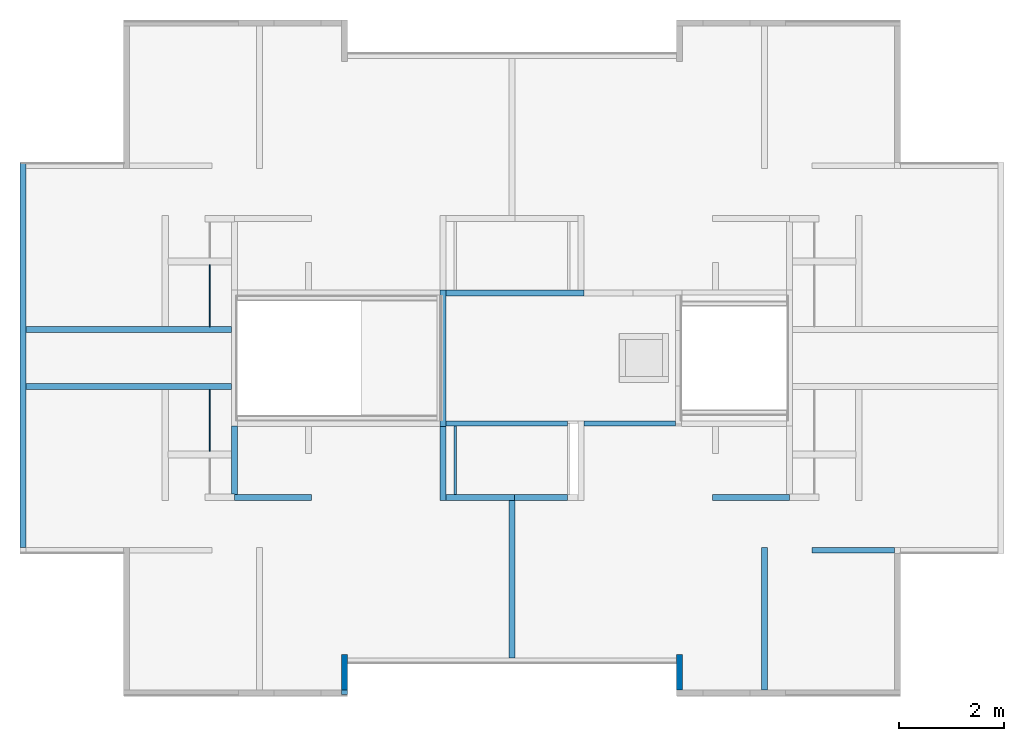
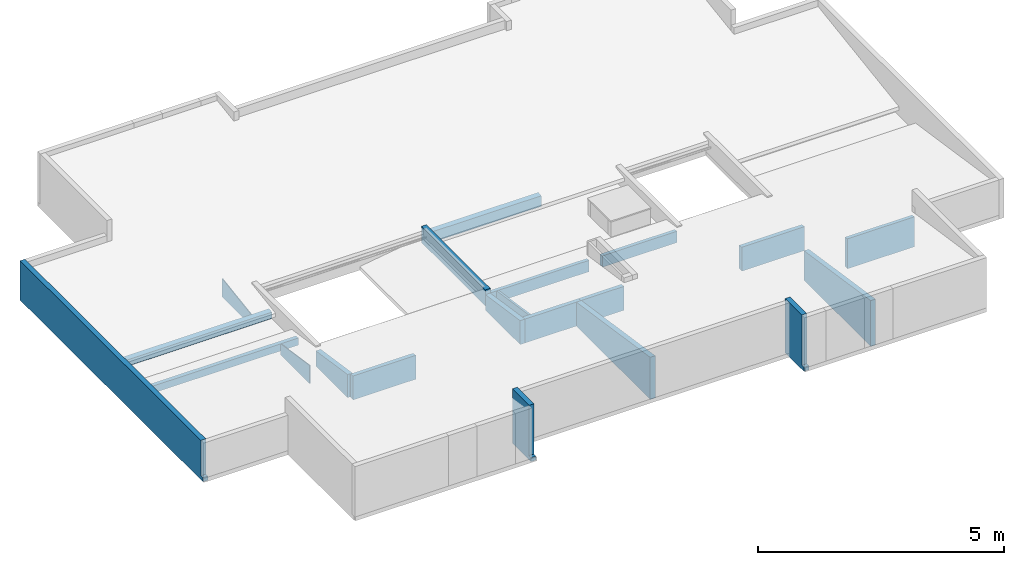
# One storey, part 4 of 9: 21 walls, 2 openings.
"""IFC4 building model written with IfcOpenShell, lengths in metres."""

import ifcopenshell
import ifcopenshell.guid

model = None  # the IFC model being written
_history = None  # IfcOwnerHistory: only IFC2X3 demands one
_inside = {}  # id of a spatial element -> (the spatial element, [elements in it])
_under = {}  # id of a project, library or spatial element -> (it, [spatial elements below it])
_declared = {}  # id of a project -> (the project, [libraries it declares])
_typed = {}  # id of a type object -> (the type object, [elements of that type])
_made_of = {}  # id of a material, layer set ... -> (it, [elements and type objects made of it])


def new_model(schema):
    """Start an empty IFC model of exactly this schema.

    Asked for "IFC4X3", IfcOpenShell would pick the latest addendum, in which some entities
    have other attributes; the version numbers below select the first issue.
    IFC2X3 requires an IfcOwnerHistory on every rooted entity: one is made here for all.
    """
    global model, _history
    if schema == "IFC4X3":
        model = ifcopenshell.file(schema_version=(4, 3, 0, 0))
    else:
        model = ifcopenshell.file(schema=schema)
    _inside.clear()
    _under.clear()
    _declared.clear()
    _typed.clear()
    _made_of.clear()
    _history = None
    if model.schema == "IFC2X3":
        org = make("IfcOrganization", Name="unknown")
        user = make(
            "IfcPersonAndOrganization",
            ThePerson=make("IfcPerson", FamilyName="unknown"),
            TheOrganization=org,
        )
        app = make(
            "IfcApplication",
            ApplicationDeveloper=org,
            Version="unknown",
            ApplicationFullName="unknown",
            ApplicationIdentifier="unknown",
        )
        _history = make(
            "IfcOwnerHistory",
            OwningUser=user,
            OwningApplication=app,
            ChangeAction="ADDED",
            CreationDate=0,
        )
    return model


def make(cls, **values):
    """One entity of the class cls with the attributes given. An attribute that is None is left unset."""
    return model.create_entity(
        cls, **{name: value for name, value in values.items() if value is not None}
    )


def entity(cls, *values):
    """Any entity or typed value of the class cls, its attributes in the order of the schema. None: left unset."""
    e = model.create_entity(cls)
    for i, value in enumerate(values):
        if value is not None:
            e[i] = value
    return e


def rooted(cls, **values):
    """An entity with a GlobalId (a new one), such as an element, a storey or a relation."""
    return make(cls, GlobalId=ifcopenshell.guid.new(), OwnerHistory=_history, **values)


def si_unit(unit_type, name, prefix=None):
    """IfcSIUnit, for example si_unit("LENGTHUNIT", "METRE", prefix="MILLI")."""
    return make("IfcSIUnit", UnitType=unit_type, Prefix=prefix, Name=name)


def converted_unit(unit_type, name, factor, base, dimensions=None, offset=None):
    """IfcConversionBasedUnit, such as the inch: factor (a typed value) times the base unit."""
    return make(
        "IfcConversionBasedUnit"
        if offset is None
        else "IfcConversionBasedUnitWithOffset",
        ConversionOffset=offset,
        Dimensions=None
        if dimensions is None
        else entity("IfcDimensionalExponents", *dimensions),
        UnitType=unit_type,
        Name=name,
        ConversionFactor=make(
            "IfcMeasureWithUnit", ValueComponent=factor, UnitComponent=base
        ),
    )


def derived_unit(unit_type, elements):
    """IfcDerivedUnit: a product of units, each with its exponent."""
    return make(
        "IfcDerivedUnit",
        Elements=[
            make("IfcDerivedUnitElement", Unit=unit, Exponent=power)
            for unit, power in elements
        ],
        UnitType=unit_type,
    )


def assignment(units):
    """IfcUnitAssignment: the units of a project."""
    return None if units is None else make("IfcUnitAssignment", Units=units)


def point(xyz):
    """IfcCartesianPoint."""
    return None if xyz is None else make("IfcCartesianPoint", Coordinates=xyz)


def direction(xyz):
    """IfcDirection."""
    return None if xyz is None else make("IfcDirection", DirectionRatios=xyz)


def frame(location, z_axis=None, x_axis=None):
    """IfcAxis2Placement3D, a coordinate frame: its origin and axes. An axis left out is left unset."""
    return make(
        "IfcAxis2Placement3D",
        Location=point(location),
        Axis=direction(z_axis),
        RefDirection=direction(x_axis),
    )


def origin():
    """The frame at (0, 0, 0) with its axes left unset."""
    return frame((0.0, 0.0, 0.0))


def place(relative_to, where):
    """IfcLocalPlacement: puts the frame where relative to a parent placement (None: the world)."""
    return make(
        "IfcLocalPlacement", PlacementRelTo=relative_to, RelativePlacement=where
    )


def context(
    kind, dimensions, precision=None, world=None, true_north=None, identifier=None
):
    """IfcGeometricRepresentationContext, for example the 3D "Model" context."""
    return make(
        "IfcGeometricRepresentationContext",
        ContextIdentifier=identifier,
        ContextType=kind,
        CoordinateSpaceDimension=dimensions,
        Precision=precision,
        WorldCoordinateSystem=world,
        TrueNorth=true_north,
    )


def subcontext(parent, identifier, kind, view, scale=None):
    """IfcGeometricRepresentationSubContext, for example "Body" below "Model"."""
    return make(
        "IfcGeometricRepresentationSubContext",
        ContextIdentifier=identifier,
        ContextType=kind,
        ParentContext=parent,
        TargetScale=scale,
        TargetView=view,
    )


def project(units=None, contexts=None):
    """IfcProject with its units and contexts."""
    return rooted(
        "IfcProject",
        Name="project",
        RepresentationContexts=contexts,
        UnitsInContext=assignment(units),
    )


def spatial(cls, under=None, at=None, **own):
    """A site, building, storey or space (cls), placed at a placement, below another one or the project."""
    s = rooted(cls, ObjectPlacement=at, **own)
    if under is not None:
        _under.setdefault(under.id(), (under, []))[1].append(s)
    return s


def point_list(points):
    """IfcCartesianPointList2D or 3D."""
    cls = (
        "IfcCartesianPointList2D" if len(points[0]) == 2 else "IfcCartesianPointList3D"
    )
    return make(cls, CoordList=points)


def indexed_curve(points, segments=None, self_intersect=None):
    """IfcIndexedPolyCurve: lines and arcs through numbered points (the first is 1)."""
    return make(
        "IfcIndexedPolyCurve",
        Points=point_list(points),
        Segments=segments,
        SelfIntersect=self_intersect,
    )


def outline(outer, holes=None, kind="AREA"):
    """IfcArbitraryClosedProfileDef: a profile drawn as a closed curve; with holes, ...WithVoids."""
    if holes is None:
        return make("IfcArbitraryClosedProfileDef", ProfileType=kind, OuterCurve=outer)
    return make(
        "IfcArbitraryProfileDefWithVoids",
        ProfileType=kind,
        OuterCurve=outer,
        InnerCurves=holes,
    )


def extrude(swept, where, along, depth):
    """IfcExtrudedAreaSolid: the profile swept, set in the frame where, extruded along a direction by depth."""
    return make(
        "IfcExtrudedAreaSolid",
        SweptArea=swept,
        Position=where,
        ExtrudedDirection=direction(along),
        Depth=depth,
    )


def polygons(points, faces, closed=None, point_numbers=None):
    """IfcPolygonalFaceSet: a face is its outer loop, then its inner loops; points numbered from 1."""
    made = []
    for loops in faces:
        if len(loops) == 1:
            made.append(make("IfcIndexedPolygonalFace", CoordIndex=loops[0]))
        else:
            made.append(
                make(
                    "IfcIndexedPolygonalFaceWithVoids",
                    CoordIndex=loops[0],
                    InnerCoordIndices=loops[1:],
                )
            )
    return make(
        "IfcPolygonalFaceSet",
        Coordinates=point_list(points),
        Closed=closed,
        Faces=made,
        PnIndex=point_numbers,
    )


def shape(context_of_items, identifier, shape_type, items):
    """IfcShapeRepresentation: the items that make up one representation, for example the "Body"."""
    return make(
        "IfcShapeRepresentation",
        ContextOfItems=context_of_items,
        RepresentationIdentifier=identifier,
        RepresentationType=shape_type,
        Items=items,
    )


def material(Name=None, Category=None):
    """IfcMaterial."""
    return make("IfcMaterial", Name=Name, Category=Category)


def made_of(thing, what):
    """Note that an element or type object is made of a material, layer set ...; save() writes the relation."""
    if what is not None:
        _made_of.setdefault(what.id(), (what, []))[1].append(thing)
    return thing


def type_object(cls, material=None, **own):
    """A type object (cls), such as IfcWallType, which elements share."""
    return made_of(rooted(cls, **own), material)


def element(
    cls,
    number,
    at=None,
    inside=None,
    cuts=None,
    type_object=None,
    material=None,
    context=None,
    identifier="Body",
    shape_type=None,
    held_by="IfcProductDefinitionShape",
    body=None,
    shapes=None,
    **own,
):
    """One element of the class cls, such as IfcWall. Its Tag is "e" and its number.

    at: its placement. inside: the storey or other place that contains it. cuts: it is an
    opening in that element (IfcRelVoidsElement). A single representation is given by context,
    identifier, shape_type and body (its items); several are given by shapes. held_by: the class
    of the entity that holds the representations. save() writes the other relations.
    """
    e = rooted(cls, Tag="e%d" % number, ObjectPlacement=at, **own)
    if body is not None:
        shapes = [shape(context, identifier, shape_type, body)]
    if shapes is not None:
        e.Representation = make(held_by, Representations=shapes)
    if inside is not None:
        _inside.setdefault(inside.id(), (inside, []))[1].append(e)
    if cuts is not None:
        rooted(
            "IfcRelVoidsElement", RelatingBuildingElement=cuts, RelatedOpeningElement=e
        )
    if type_object is not None:
        _typed.setdefault(type_object.id(), (type_object, []))[1].append(e)
    return made_of(e, material)


def aggregate(whole, parts):
    """IfcRelAggregates: a whole, such as a stair, and the parts it consists of."""
    return rooted("IfcRelAggregates", RelatingObject=whole, RelatedObjects=parts)


def save(model, path):
    """Write the relations noted so far, then the file.

    IfcRelAggregates (storeys below a building ...), IfcRelContainedInSpatialStructure (elements
    in a storey), IfcRelDefinesByType, IfcRelAssociatesMaterial and IfcRelDeclares: one each for
    every whole, place, type object, material and project.
    """
    for whole, parts in _under.values():
        aggregate(whole, parts)
    for where, things in _inside.values():
        rooted(
            "IfcRelContainedInSpatialStructure",
            RelatedElements=things,
            RelatingStructure=where,
        )
    for kind, things in _typed.values():
        rooted("IfcRelDefinesByType", RelatedObjects=things, RelatingType=kind)
    for what, things in _made_of.values():
        rooted("IfcRelAssociatesMaterial", RelatedObjects=things, RelatingMaterial=what)
    for by, libraries in _declared.values():
        rooted("IfcRelDeclares", RelatingContext=by, RelatedDefinitions=libraries)
    model.write(path)


model = new_model("IFC4")

# Units and contexts
model_context = context("Model", 3, precision=1e-05, world=origin(), true_north=direction((6.123031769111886e-17, 1.0)))
body_context = subcontext(model_context, "Body", "Model", "MODEL_VIEW")
ifc_project = project(units=[si_unit("LENGTHUNIT", "METRE"), si_unit("AREAUNIT", "SQUARE_METRE"), si_unit("VOLUMEUNIT", "CUBIC_METRE"), converted_unit("PLANEANGLEUNIT", "DEGREE", entity("IfcRatioMeasure", 0.017453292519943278), si_unit("PLANEANGLEUNIT", "RADIAN"), dimensions=[0, 0, 0, 0, 0, 0, 0]), si_unit("MASSUNIT", "GRAM", prefix="KILO"), derived_unit("MASSDENSITYUNIT", [(si_unit("MASSUNIT", "GRAM", prefix="KILO"), 1), (si_unit("LENGTHUNIT", "METRE"), -3)]), derived_unit("IONCONCENTRATIONUNIT", [(si_unit("MASSUNIT", "GRAM", prefix="KILO"), 1), (si_unit("LENGTHUNIT", "METRE"), -3)]), derived_unit("MOMENTOFINERTIAUNIT", [(si_unit("LENGTHUNIT", "METRE"), 4)]), si_unit("TIMEUNIT", "SECOND"), si_unit("FREQUENCYUNIT", "HERTZ"), si_unit("THERMODYNAMICTEMPERATUREUNIT", "DEGREE_CELSIUS"), derived_unit("THERMALTRANSMITTANCEUNIT", [(si_unit("MASSUNIT", "GRAM", prefix="KILO"), 1), (si_unit("THERMODYNAMICTEMPERATUREUNIT", "KELVIN"), -1), (si_unit("TIMEUNIT", "SECOND"), -3)]), derived_unit("THERMALCONDUCTANCEUNIT", [(si_unit("MASSUNIT", "GRAM", prefix="KILO"), 1), (si_unit("THERMODYNAMICTEMPERATUREUNIT", "KELVIN"), -1), (si_unit("TIMEUNIT", "SECOND"), -3), (si_unit("LENGTHUNIT", "METRE"), 1)]), derived_unit("VOLUMETRICFLOWRATEUNIT", [(si_unit("LENGTHUNIT", "METRE"), 3), (si_unit("TIMEUNIT", "SECOND"), -1)]), derived_unit("MASSFLOWRATEUNIT", [(si_unit("MASSUNIT", "GRAM", prefix="KILO"), 1), (si_unit("TIMEUNIT", "SECOND"), -1)]), derived_unit("ROTATIONALFREQUENCYUNIT", [(si_unit("TIMEUNIT", "SECOND"), -1)]), si_unit("ELECTRICCURRENTUNIT", "AMPERE"), si_unit("ELECTRICVOLTAGEUNIT", "VOLT"), si_unit("POWERUNIT", "WATT"), si_unit("FORCEUNIT", "NEWTON", prefix="KILO"), si_unit("ILLUMINANCEUNIT", "LUX"), si_unit("LUMINOUSFLUXUNIT", "LUMEN"), si_unit("LUMINOUSINTENSITYUNIT", "CANDELA"), derived_unit("USERDEFINED", [(si_unit("MASSUNIT", "GRAM", prefix="KILO"), -1), (si_unit("LENGTHUNIT", "METRE"), -2), (si_unit("TIMEUNIT", "SECOND"), 3), (si_unit("LUMINOUSFLUXUNIT", "LUMEN"), 1)]), derived_unit("USERDEFINED", [(si_unit("MASSUNIT", "GRAM", prefix="KILO"), 1), (si_unit("TIMEUNIT", "SECOND"), -3), (si_unit("LENGTHUNIT", "METRE"), 3), (si_unit("ELECTRICCURRENTUNIT", "AMPERE"), -2)]), derived_unit("SOUNDPOWERUNIT", [(si_unit("MASSUNIT", "GRAM", prefix="KILO"), 1), (si_unit("TIMEUNIT", "SECOND"), -3), (si_unit("LENGTHUNIT", "METRE"), 2)]), derived_unit("SOUNDPRESSUREUNIT", [(si_unit("MASSUNIT", "GRAM", prefix="KILO"), 1), (si_unit("LENGTHUNIT", "METRE"), -1), (si_unit("TIMEUNIT", "SECOND"), -2)]), derived_unit("LINEARVELOCITYUNIT", [(si_unit("LENGTHUNIT", "METRE"), 1), (si_unit("TIMEUNIT", "SECOND"), -1)]), si_unit("PRESSUREUNIT", "PASCAL"), derived_unit("USERDEFINED", [(si_unit("MASSUNIT", "GRAM", prefix="KILO"), 1), (si_unit("LENGTHUNIT", "METRE"), -2), (si_unit("TIMEUNIT", "SECOND"), -2)]), derived_unit("LINEARFORCEUNIT", [(si_unit("MASSUNIT", "GRAM", prefix="KILO"), 1), (si_unit("TIMEUNIT", "SECOND"), -2)]), derived_unit("PLANARFORCEUNIT", [(si_unit("MASSUNIT", "GRAM", prefix="KILO"), 1), (si_unit("LENGTHUNIT", "METRE"), -1), (si_unit("TIMEUNIT", "SECOND"), -2)]), derived_unit("SPECIFICHEATCAPACITYUNIT", [(si_unit("THERMODYNAMICTEMPERATUREUNIT", "KELVIN"), -1), (si_unit("LENGTHUNIT", "METRE"), 2), (si_unit("TIMEUNIT", "SECOND"), -2)]), derived_unit("HEATINGVALUEUNIT", [(si_unit("LENGTHUNIT", "METRE"), 2), (si_unit("TIMEUNIT", "SECOND"), -2)]), derived_unit("VAPORPERMEABILITYUNIT", [(si_unit("LENGTHUNIT", "METRE"), -1), (si_unit("TIMEUNIT", "SECOND"), 1)]), derived_unit("DYNAMICVISCOSITYUNIT", [(si_unit("MASSUNIT", "GRAM", prefix="KILO"), 1), (si_unit("TIMEUNIT", "SECOND"), -1), (si_unit("LENGTHUNIT", "METRE"), -1)]), derived_unit("THERMALEXPANSIONCOEFFICIENTUNIT", [(si_unit("THERMODYNAMICTEMPERATUREUNIT", "KELVIN"), -1)]), derived_unit("MODULUSOFELASTICITYUNIT", [(si_unit("MASSUNIT", "GRAM", prefix="KILO"), 1), (si_unit("LENGTHUNIT", "METRE"), -1), (si_unit("TIMEUNIT", "SECOND"), -2)]), derived_unit("ISOTHERMALMOISTURECAPACITYUNIT", [(si_unit("LENGTHUNIT", "METRE"), 3), (si_unit("MASSUNIT", "GRAM", prefix="KILO"), -1)]), derived_unit("MOISTUREDIFFUSIVITYUNIT", [(si_unit("TIMEUNIT", "SECOND"), -1), (si_unit("LENGTHUNIT", "METRE"), 2)])], contexts=[model_context])

# Site, building, storey
site_placement = place(None, origin())
site = spatial("IfcSite", under=ifc_project, at=site_placement, Name="Default", CompositionType="ELEMENT")
building_placement = place(site_placement, origin())
building = spatial("IfcBuilding", under=site, at=building_placement, CompositionType="ELEMENT")
storey_placement = place(building_placement, frame((0.0, 0.0, 14.10000000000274)))
storey = spatial("IfcBuildingStorey", under=building, at=storey_placement, Name="Nivel 7", CompositionType="ELEMENT", Elevation=14.10000000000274)

# Walls
ifc_material_1 = material(Name="Concreto (Aire)", Category="Materials")
wall_type_1 = type_object("IfcWallType", Name="Basic Wall:B2010 - 0.12m - Muro interior en concreto", PredefinedType="STANDARD")
wall_1_placement = place(storey_placement, frame((9.322500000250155, -12.140000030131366, -0.10000000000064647), z_axis=(0.0, 0.0, 1.0), x_axis=(0.0, 1.0, 0.0)))
element("IfcWall", 1, at=wall_1_placement, inside=storey, type_object=wall_type_1, material=ifc_material_1, Name="Basic Wall:B2010 - 0.12m - Muro interior en concreto", ObjectType="Basic Wall:B2010 - 0.12m - Muro interior en concreto", PredefinedType="NOTDEFINED", context=body_context, shape_type="Tessellation", body=[
    polygons([(0.0, -0.05999999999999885, 0.0), (3.000000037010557, -0.06000000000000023, 0.0), (3.000000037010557, -0.06000000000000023, 0.5934499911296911), (2.1657342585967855e-15, -0.05999999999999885, 1.0434499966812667), (0.0, 0.060000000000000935, 0.0), (0.0, 0.060000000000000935, 1.0434499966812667), (3.000000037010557, 0.06000000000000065, 0.5934499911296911), (3.000000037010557, 0.06000000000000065, 0.0)], [[[1, 2, 3, 4]], [[5, 6, 7, 8]], [[2, 1, 5, 8]], [[1, 4, 6, 5]], [[4, 3, 7, 6]], [[3, 2, 8, 7]]], closed=True),
])
ifc_material_2 = material(Name="Ladrillo claro (Aire)", Category="Materials")
wall_type_2 = type_object("IfcWallType", Name="Basic Wall:B2010 - 0.115m - Muro exterior en mampostería - Ladrillo", PredefinedType="STANDARD")
wall_2_placement = place(storey_placement, frame((0.0, -10.12500002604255, -0.10000000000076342), z_axis=(0.0, 0.0, 1.0), x_axis=(0.0, 1.0, 0.0)))
element("IfcWall", 2, at=wall_2_placement, inside=storey, type_object=wall_type_2, material=ifc_material_2, Name="Basic Wall:B2010 - 0.115m - Muro exterior en mampostería - Ladrillo", ObjectType="Basic Wall:B2010 - 0.115m - Muro exterior en mampostería - Ladrillo", PredefinedType="NOTDEFINED", context=body_context, shape_type="Tessellation", body=[
    polygons([(7.429999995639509, -0.05750000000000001, 0.9758000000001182), (7.314999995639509, -0.05750000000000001, 0.975800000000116), (0.08499999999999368, -0.05750000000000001, 0.9758000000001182), (0.08499999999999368, -0.05750000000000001, 0.1000000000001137), (0.0, -0.05750000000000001, 0.1000000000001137), (0.0, -0.05750000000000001, 6.042398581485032e-13), (3.099999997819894, -0.05750000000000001, 6.042398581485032e-13), (3.099999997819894, -0.057499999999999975, 0.09999999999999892), (4.299999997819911, -0.05750000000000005, 0.09999999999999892), (4.299999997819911, -0.0575, 6.042398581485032e-13), (7.429999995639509, -0.05750000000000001, 6.042398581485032e-13), (7.429999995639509, -0.05750000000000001, 0.10000000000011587), (7.429999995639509, 0.05749999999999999, 6.042398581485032e-13), (0.0, 0.0575, 6.042398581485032e-13), (0.0, 0.0575, 0.1000000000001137), (0.08499999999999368, 0.0575, 0.1000000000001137), (0.08499999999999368, 0.0575, 0.9758000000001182), (7.429999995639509, 0.05749999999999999, 0.9758000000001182), (3.099999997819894, 1.6271566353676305e-15, 0.09999999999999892), (4.299999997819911, 3.56567611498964e-15, 0.09999999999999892), (3.099999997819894, 1.6271566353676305e-15, 4.028265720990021e-13), (4.299999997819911, 3.56567611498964e-15, 4.028265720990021e-13)], [[[1, 2, 3, 4, 5, 6, 7, 8, 9, 10, 11, 12]], [[13, 14, 15, 16, 17, 18]], [[19, 20, 9, 8]], [[20, 19, 21, 22]], [[21, 19, 8, 7]], [[20, 22, 10, 9]], [[1, 12, 11, 13, 18]], [[14, 13, 11, 10, 22, 21, 7, 6]], [[3, 2, 1, 18, 17]], [[4, 3, 17, 16]], [[5, 4, 16, 15]], [[6, 5, 15, 14]]], closed=True),
])

# Wall, opening
wall_3_placement = place(storey_placement, frame((6.124999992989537, -12.84000003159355, -0.09999999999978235), z_axis=(0.0, 0.0, 1.0), x_axis=(0.0, 1.0, 0.0)))
wall_3 = element("IfcWall", 3, at=wall_3_placement, inside=storey, type_object=wall_type_2, material=ifc_material_2, Name="Basic Wall:B2010 - 0.115m - Muro exterior en mampostería - Ladrillo", ObjectType="Basic Wall:B2010 - 0.115m - Muro exterior en mampostería - Ladrillo", PredefinedType="NOTDEFINED", context=body_context, shape_type="Tessellation", body=[
    polygons([(0.08500000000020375, -0.057499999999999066, 0.09999999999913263), (0.0, -0.05749999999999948, 0.09999999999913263), (0.0, -0.05749999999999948, 0.0), (0.5850000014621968, -0.05749999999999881, 0.0), (0.6150000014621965, -0.05749999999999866, 0.0), (0.7599180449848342, -0.05749999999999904, 0.0), (0.7599180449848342, -0.05749999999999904, 1.3467999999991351), (0.08500000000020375, -0.057499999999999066, 1.3467999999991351), (0.08500000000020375, 0.05750000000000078, 0.09999999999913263), (0.08500000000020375, 0.05750000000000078, 1.3467999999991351), (0.7599180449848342, 0.057500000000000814, 1.3467999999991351), (0.7599180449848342, 0.057500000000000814, 0.0), (0.0, 0.05750000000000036, 0.0), (0.0, 0.05750000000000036, 0.09999999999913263)], [[[1, 2, 3, 4, 5, 6, 7, 8]], [[9, 10, 11, 12, 13, 14]], [[6, 5, 4, 3, 13, 12]], [[7, 6, 12, 11]], [[8, 7, 11, 10]], [[1, 8, 10, 9]], [[2, 1, 9, 14]], [[3, 2, 14, 13]]], closed=True),
])
opening_1_placement = place(wall_3_placement, origin())
element("IfcOpeningElement", 4, at=opening_1_placement, cuts=wall_3, Name="Basic Wall:B2010 - 0.115m - Muro exterior en mampostería - Ladrillo", PredefinedType="OPENING", context=body_context, shape_type="SweptSolid", body=[
    extrude(outline(indexed_curve([(-0.04250000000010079, -0.6233999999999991), (0.042500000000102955, -0.6233999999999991), (0.042500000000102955, 0.6234000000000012), (-0.04250000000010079, 0.6234000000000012), (-0.04250000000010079, -0.6233999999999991)], self_intersect=False)), frame((0.042500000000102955, 0.05750000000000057, 0.7233999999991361), z_axis=(0.0, -1.0, 0.0), x_axis=(-1.0, 0.0, 0.0)), (0.0, 0.0, 1.0), 0.115),
])

wall_4_placement = place(storey_placement, frame((12.520000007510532, -12.840000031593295, -0.09999999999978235), z_axis=(0.0, 0.0, 1.0), x_axis=(0.0, 1.0, 0.0)))
wall_4 = element("IfcWall", 5, at=wall_4_placement, inside=storey, type_object=wall_type_2, material=ifc_material_2, Name="Basic Wall:B2010 - 0.115m - Muro exterior en mampostería - Ladrillo", ObjectType="Basic Wall:B2010 - 0.115m - Muro exterior en mampostería - Ladrillo", PredefinedType="NOTDEFINED", context=body_context, shape_type="Tessellation", body=[
    polygons([(0.08499999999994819, -0.05749999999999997, 0.09999999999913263), (0.0, -0.057500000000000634, 0.09999999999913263), (0.0, -0.057500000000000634, 0.0), (0.7599180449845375, -0.057499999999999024, 0.0), (0.7599180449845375, -0.057499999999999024, 1.3467999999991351), (0.08499999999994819, -0.05749999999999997, 1.3467999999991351), (0.08499999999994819, 0.05749999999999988, 0.09999999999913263), (0.08499999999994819, 0.05749999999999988, 1.3467999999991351), (0.7599180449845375, 0.05750000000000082, 1.3467999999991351), (0.7599180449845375, 0.05750000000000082, 0.0), (0.6150000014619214, 0.05749999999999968, 0.0), (0.5850000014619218, 0.05749999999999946, 0.0), (0.0, 0.05749999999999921, 0.0), (0.0, 0.05749999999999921, 0.09999999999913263)], [[[1, 2, 3, 4, 5, 6]], [[7, 8, 9, 10, 11, 12, 13, 14]], [[4, 3, 13, 12, 11, 10]], [[5, 4, 10, 9]], [[6, 5, 9, 8]], [[1, 6, 8, 7]], [[2, 1, 7, 14]], [[3, 2, 14, 13]]], closed=True),
])
opening_2_placement = place(wall_4_placement, origin())
element("IfcOpeningElement", 6, at=opening_2_placement, cuts=wall_4, Name="Basic Wall:B2010 - 0.115m - Muro exterior en mampostería - Ladrillo", PredefinedType="OPENING", context=body_context, shape_type="SweptSolid", body=[
    extrude(outline(indexed_curve([(-0.042499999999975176, -0.6233999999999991), (0.04249999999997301, -0.6233999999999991), (0.04249999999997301, 0.6234000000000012), (-0.042499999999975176, 0.6234000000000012), (-0.042499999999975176, -0.6233999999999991)], self_intersect=False)), frame((0.04249999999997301, 0.05749999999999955, 0.7233999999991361), z_axis=(0.0, -1.0, 0.0), x_axis=(-1.0, 0.0, 0.0)), (0.0, 0.0, 1.0), 0.115),
])

# Walls
wall_type_3 = type_object("IfcWallType", Name="Basic Wall:B2010 - 0.115m - Muro interior en mampostería - Ladrillo", PredefinedType="STANDARD")
wall_5_placement = place(storey_placement, frame((4.029999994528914, -9.082499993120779, -0.10000000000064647)))
element("IfcWall", 7, at=wall_5_placement, inside=storey, type_object=wall_type_3, material=ifc_material_2, Name="Basic Wall:B2010 - 0.115m - Muro interior en mampostería - Ladrillo", ObjectType="Basic Wall:B2010 - 0.115m - Muro interior en mampostería - Ladrillo", PredefinedType="NOTDEFINED", context=body_context, shape_type="Tessellation", body=[
    polygons([(-3.926274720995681e-16, -0.057499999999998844, 0.0), (1.4724999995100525, -0.057499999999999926, 0.0), (1.4724999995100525, -0.057499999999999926, 0.5934499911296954), (-3.926274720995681e-16, -0.057499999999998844, 0.5934499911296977), (3.1368823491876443e-16, 0.05750000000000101, 0.0), (3.1368823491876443e-16, 0.05750000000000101, 0.5761999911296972), (0.05750000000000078, 0.057499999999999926, 0.5761999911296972), (1.472499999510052, 0.057499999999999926, 0.576199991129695), (1.472499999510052, 0.057499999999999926, 0.0), (0.05750000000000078, 0.057499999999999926, 0.0)], [[[1, 2, 3, 4]], [[5, 6, 7, 8, 9, 10]], [[2, 1, 5, 10, 9]], [[3, 2, 9, 8]], [[1, 4, 6, 5]], [[4, 3, 8, 7, 6]]], closed=True),
])
wall_6_placement = place(storey_placement, frame((8.00500000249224, -7.726000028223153, -0.10000000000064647), z_axis=(0.0, 0.0, 1.0), x_axis=(0.0, -1.0, 0.0)))
element("IfcWall", 8, at=wall_6_placement, inside=storey, type_object=wall_type_3, material=ifc_material_2, Name="Basic Wall:B2010 - 0.115m - Muro interior en mampostería - Ladrillo", ObjectType="Basic Wall:B2010 - 0.115m - Muro interior en mampostería - Ladrillo", PredefinedType="NOTDEFINED", context=body_context, shape_type="Tessellation", body=[
    polygons([(0.0, -0.05750000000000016, 0.0), (1.4140000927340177, -0.05750000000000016, 0.0), (1.4140000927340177, -0.05750000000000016, 0.5934500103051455), (0.0, -0.05750000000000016, 0.3813499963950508), (0.0, 0.05749999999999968, 0.0), (0.0, 0.05749999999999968, 0.3813499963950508), (1.4140000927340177, 0.05749999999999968, 0.5934500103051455), (1.4140000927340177, 0.05749999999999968, 0.0)], [[[1, 2, 3, 4]], [[5, 6, 7, 8]], [[2, 1, 5, 8]], [[3, 2, 8, 7]], [[1, 4, 6, 5]], [[4, 3, 7, 6]]], closed=True),
])
wall_7_placement = place(storey_placement, frame((14.135000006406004, -12.755000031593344, -0.10000000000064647), z_axis=(0.0, 0.0, 1.0), x_axis=(0.0, 1.0, 0.0)))
element("IfcWall", 9, at=wall_7_placement, inside=storey, type_object=wall_type_3, material=ifc_material_2, Name="Basic Wall:B2010 - 0.115m - Muro interior en mampostería - Ladrillo", ObjectType="Basic Wall:B2010 - 0.115m - Muro interior en mampostería - Ladrillo", PredefinedType="NOTDEFINED", context=body_context, shape_type="Tessellation", body=[
    polygons([(0.0, -0.05749999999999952, 0.0), (2.7150000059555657, -0.05750000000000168, 0.0), (2.7150000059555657, -0.05750000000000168, 0.7284499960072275), (1.4726992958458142e-13, -0.05749999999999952, 1.1356999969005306), (0.0, 0.05750000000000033, 0.0), (0.0, 0.05750000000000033, 1.1356999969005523), (2.7150000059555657, 0.057500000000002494, 0.7284499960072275), (2.7150000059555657, 0.057500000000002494, 0.0)], [[[1, 2, 3, 4]], [[5, 6, 7, 8]], [[2, 1, 5, 8]], [[3, 2, 8, 7]], [[4, 3, 7, 6]], [[1, 4, 6, 5]]], closed=True),
])
wall_8_placement = place(storey_placement, frame((14.615000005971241, -9.082499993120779, -0.10000000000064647), z_axis=(0.0, 0.0, 1.0), x_axis=(-1.0, 0.0, 0.0)))
element("IfcWall", 10, at=wall_8_placement, inside=storey, type_object=wall_type_3, material=ifc_material_2, Name="Basic Wall:B2010 - 0.115m - Muro interior en mampostería - Ladrillo", ObjectType="Basic Wall:B2010 - 0.115m - Muro interior en mampostería - Ladrillo", PredefinedType="NOTDEFINED", context=body_context, shape_type="Tessellation", body=[
    polygons([(1.3965553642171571e-15, -0.05750000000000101, 0.0), (0.057499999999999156, -0.057499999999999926, 0.0), (1.4724999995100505, -0.057499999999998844, 0.0), (1.4724999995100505, -0.057499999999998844, 0.5761999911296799), (0.057499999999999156, -0.057499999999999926, 0.5761999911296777), (1.3965553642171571e-15, -0.05750000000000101, 0.5761999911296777), (1.7731067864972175e-15, 0.057499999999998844, 0.0), (1.7731067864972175e-15, 0.057499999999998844, 0.5934499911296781), (1.472499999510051, 0.05750000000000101, 0.5934499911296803), (1.472499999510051, 0.05750000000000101, 0.0)], [[[1, 2, 3, 4, 5, 6]], [[7, 8, 9, 10]], [[3, 2, 1, 7, 10]], [[4, 3, 10, 9]], [[1, 6, 8, 7]], [[6, 5, 4, 9, 8]]], closed=True),
])
wall_type_4 = type_object("IfcWallType", Name="Basic Wall:B2010 - 0.10m - Muro interior en concreto", PredefinedType="STANDARD")
wall_9_placement = place(storey_placement, frame((16.612500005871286, -10.090000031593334, -0.10000000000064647), z_axis=(0.0, 0.0, 1.0), x_axis=(-1.0, 0.0, 0.0)))
element("IfcWall", 11, at=wall_9_placement, inside=storey, type_object=wall_type_4, material=ifc_material_1, Name="Basic Wall:B2010 - 0.10m - Muro interior en concreto", ObjectType="Basic Wall:B2010 - 0.10m - Muro interior en concreto", PredefinedType="NOTDEFINED", context=body_context, shape_type="Tessellation", body=[
    polygons([(3.747881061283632e-09, -0.050000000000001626, 0.7284499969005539), (7.717507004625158e-10, -0.050000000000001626, 0.09999999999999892), (-3.9651414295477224e-17, -0.050000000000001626, 0.0), (1.5699999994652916, -0.05000000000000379, 0.0), (1.5699999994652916, -0.05000000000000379, 0.7284499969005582), (2.8351952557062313e-16, 0.04999999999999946, 0.0), (2.8351952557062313e-16, 0.04999999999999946, 0.7434499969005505), (1.5699999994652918, 0.0499999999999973, 0.743449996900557), (1.5699999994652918, 0.0499999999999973, 0.0)], [[[1, 2, 3, 4, 5]], [[6, 7, 8, 9]], [[4, 3, 6, 9]], [[5, 4, 9, 8]], [[1, 5, 8, 7]], [[1, 7, 6, 3, 2]]], closed=True),
])
wall_10_placement = place(storey_placement, frame((10.697499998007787, -7.675000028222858, 0.0)))
element("IfcWall", 12, at=wall_10_placement, inside=storey, type_object=wall_type_4, material=ifc_material_1, Name="Basic Wall:B2010 - 0.10m - Muro interior en concreto", ObjectType="Basic Wall:B2010 - 0.10m - Muro interior en concreto", PredefinedType="NOTDEFINED", context=body_context, shape_type="Tessellation", body=[
    polygons([(1.4265268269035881e-15, -0.050000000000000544, -2.1657342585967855e-15), (1.7450000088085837, -0.04999999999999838, -2.1657342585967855e-15), (1.7450000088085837, -0.050000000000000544, 0.28119999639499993), (3.824400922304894e-14, -0.050000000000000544, 0.28119999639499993), (4.2682164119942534e-16, 0.050000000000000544, -2.1657342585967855e-15), (4.2682164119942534e-16, 0.050000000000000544, 0.2661999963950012), (1.7450000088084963, 0.050000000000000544, 0.2661999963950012), (1.7450000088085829, 0.050000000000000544, -2.1657342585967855e-15)], [[[1, 2, 3, 4]], [[5, 6, 7, 8]], [[2, 1, 5, 8]], [[2, 8, 7, 3]], [[4, 3, 7, 6]], [[1, 4, 6, 5]]], closed=True),
])
ifc_material_3 = material(Name="LADRILLO CLARO", Category="Materials")
wall_type_5 = type_object("IfcWallType", Name="Basic Wall:B2010 - 0.115m - MI mampostería no estructural - Ladrillo", PredefinedType="STANDARD")
wall_11_placement = place(storey_placement, frame((8.00500000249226, -7.726000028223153, 0.0), z_axis=(0.0, 0.0, 1.0), x_axis=(0.0, 1.0, 0.0)))
element("IfcWall", 13, at=wall_11_placement, inside=storey, type_object=wall_type_5, material=ifc_material_3, Name="Basic Wall:B2010 - 0.115m - MI mampostería no estructural - Ladrillo", ObjectType="Basic Wall:B2010 - 0.115m - MI mampostería no estructural - Ladrillo", PredefinedType="NOTDEFINED", context=body_context, shape_type="Tessellation", body=[
    polygons([(0.0, -0.057499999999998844, 0.0), (2.4860000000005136, -0.057499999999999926, 0.0), (2.6010000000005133, -0.057499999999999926, 0.0), (2.601500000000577, -0.057499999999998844, 0.0), (2.601500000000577, -0.057499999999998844, 0.2812749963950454), (2.6010000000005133, -0.057499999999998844, 0.2812749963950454), (2.6010000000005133, -0.057499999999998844, 0.40000000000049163), (0.0, -0.057499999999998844, 0.40000000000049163), (0.0, 0.05750000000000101, 0.0), (0.0, 0.05750000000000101, 0.40000000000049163), (2.6010000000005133, 0.05750000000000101, 0.40000000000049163), (2.6010000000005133, 0.05750000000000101, 0.2812749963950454), (2.601500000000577, 0.05750000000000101, 0.2812749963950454), (2.601500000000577, 0.05750000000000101, 0.0), (2.500500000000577, 0.057499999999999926, 0.0), (0.10099999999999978, 0.057499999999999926, 0.0)], [[[1, 2, 3, 4, 5, 6, 7, 8]], [[9, 10, 11, 12, 13, 14, 15, 16]], [[4, 3, 2, 1, 9, 16, 15, 14]], [[8, 7, 11, 10]], [[1, 8, 10, 9]], [[5, 4, 14, 13]], [[12, 6, 5, 13]], [[7, 6, 12, 11]]], closed=True),
])
wall_12_placement = place(storey_placement, frame((8.062500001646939, -9.082499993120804, -0.10000000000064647)))
element("IfcWall", 14, at=wall_12_placement, inside=storey, type_object=wall_type_5, material=ifc_material_3, Name="Basic Wall:B2010 - 0.115m - MI mampostería no estructural - Ladrillo", ObjectType="Basic Wall:B2010 - 0.115m - MI mampostería no estructural - Ladrillo", PredefinedType="NOTDEFINED", context=body_context, shape_type="Tessellation", body=[
    polygons([(-4.1041974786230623e-16, -0.057499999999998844, 0.0), (1.199999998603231, -0.057499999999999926, 0.0), (1.3199999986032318, -0.05750000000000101, 0.0), (1.3199999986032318, -0.05750000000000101, 0.5934499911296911), (1.199999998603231, -0.057499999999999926, 0.5934499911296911), (-4.1041974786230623e-16, -0.057499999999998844, 0.5934499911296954), (-8.139966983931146e-16, 0.05750000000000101, 0.0), (-8.139966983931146e-16, 0.05750000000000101, 0.576199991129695), (0.1499999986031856, 0.057499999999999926, 0.5761999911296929), (0.19999999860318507, 0.057499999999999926, 0.5761999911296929), (1.3199999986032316, 0.057499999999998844, 0.5761999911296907), (1.3199999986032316, 0.057499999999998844, 0.0), (0.199999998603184, 0.057499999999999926, 0.0), (0.14999999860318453, 0.057499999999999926, 0.0)], [[[1, 2, 3, 4, 5, 6]], [[7, 8, 9, 10, 11, 12, 13, 14]], [[3, 2, 1, 7, 14, 13, 12]], [[1, 6, 8, 7]], [[4, 3, 12, 11]], [[6, 5, 4, 11, 10, 9, 8]]], closed=True),
])
wall_13_placement = place(storey_placement, frame((4.029999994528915, -9.024999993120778, -0.10000000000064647), z_axis=(0.0, 0.0, 1.0), x_axis=(0.0, 1.0, 0.0)))
element("IfcWall", 15, at=wall_13_placement, inside=storey, type_object=wall_type_5, material=ifc_material_3, Name="Basic Wall:B2010 - 0.115m - MI mampostería no estructural - Ladrillo", ObjectType="Basic Wall:B2010 - 0.115m - MI mampostería no estructural - Ladrillo", PredefinedType="NOTDEFINED", context=body_context, shape_type="Tessellation", body=[
    polygons([(1.0828671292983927e-15, -0.05749999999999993, 0.0), (1.2999999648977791, -0.05749999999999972, 0.0), (1.2999999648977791, -0.05749999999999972, 0.3811999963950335), (1.0828671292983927e-15, -0.05749999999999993, 0.5761999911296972), (0.009999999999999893, 0.05749999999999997, 0.0), (0.009999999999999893, 0.05749999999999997, 0.5746999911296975), (0.6900000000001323, 0.05749999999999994, 0.4726999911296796), (0.8250000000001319, 0.057500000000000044, 0.4524499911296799), (1.2999999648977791, 0.05750000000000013, 0.3811999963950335), (1.2999999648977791, 0.05750000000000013, 0.0), (0.8250000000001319, 0.057500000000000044, 0.0), (0.6900000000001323, 0.05749999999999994, 0.0), (1.0828671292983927e-15, 5.35424453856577e-16, 0.0), (0.009999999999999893, 5.828252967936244e-16, 0.0), (1.0828671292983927e-15, 5.35424453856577e-16, 0.5761999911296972), (0.010000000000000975, 5.828252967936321e-16, 0.5746999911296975)], [[[1, 2, 3, 4]], [[5, 6, 7, 8, 9, 10, 11, 12]], [[2, 1, 13, 14, 5, 12, 11, 10]], [[3, 2, 10, 9]], [[1, 4, 15, 13]], [[15, 16, 14, 13]], [[16, 6, 5, 14]], [[4, 3, 9, 8, 7, 6, 16, 15]]], closed=True),
])
wall_14_placement = place(storey_placement, frame((10.382500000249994, -9.082499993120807, -0.10000000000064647), z_axis=(0.0, 0.0, 1.0), x_axis=(-1.0, 0.0, 0.0)))
element("IfcWall", 16, at=wall_14_placement, inside=storey, type_object=wall_type_5, material=ifc_material_3, Name="Basic Wall:B2010 - 0.115m - MI mampostería no estructural - Ladrillo", ObjectType="Basic Wall:B2010 - 0.115m - MI mampostería no estructural - Ladrillo", PredefinedType="NOTDEFINED", context=body_context, shape_type="Tessellation", body=[
    polygons([(-1.0016520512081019e-15, -0.057499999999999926, 0.0), (1.0099999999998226, -0.057499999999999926, 0.0), (1.0099999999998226, -0.057499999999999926, 0.5761999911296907), (1.1992753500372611e-14, -0.057499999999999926, 0.5761999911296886), (-6.280628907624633e-16, 0.057499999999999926, 0.0), (-6.280628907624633e-16, 0.057499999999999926, 0.593449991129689), (1.0099999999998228, 0.057499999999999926, 0.5934499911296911), (1.0099999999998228, 0.057499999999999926, 0.0)], [[[1, 2, 3, 4]], [[5, 6, 7, 8]], [[2, 1, 5, 8]], [[3, 2, 8, 7]], [[4, 3, 7, 6]], [[1, 4, 6, 5]]], closed=True),
])
ifc_material_4 = material(Name="0 muro divisorio", Category="Materials")
wall_type_6 = type_object("IfcWallType", Name="Basic Wall:B2010 - 0.05m - MI No estructural- Concreto", PredefinedType="STANDARD")
wall_15_placement = place(storey_placement, frame((8.23750000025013, -7.725000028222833, -0.10000000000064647), z_axis=(0.0, 0.0, 1.0), x_axis=(0.0, -1.0, 0.0)))
element("IfcWall", 17, at=wall_15_placement, inside=storey, type_object=wall_type_6, material=ifc_material_4, Name="Basic Wall:B2010 - 0.05m - MI No estructural- Concreto", ObjectType="Basic Wall:B2010 - 0.05m - MI No estructural- Concreto", PredefinedType="NOTDEFINED", context=body_context, shape_type="Tessellation", body=[
    polygons([(0.0, -0.02499999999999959, 0.0), (1.299999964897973, -0.024999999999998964, 0.0), (1.299999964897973, -0.024999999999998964, 0.576199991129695), (0.0, -0.02499999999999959, 0.3811999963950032), (1.0828671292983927e-15, 0.02500000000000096, 0.0), (1.0828671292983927e-15, 0.02500000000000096, 0.3811999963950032), (1.299999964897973, 0.025000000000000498, 0.576199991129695), (1.299999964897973, 0.025000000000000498, 0.0)], [[[1, 2, 3, 4]], [[5, 6, 7, 8]], [[2, 1, 5, 8]], [[1, 4, 6, 5]], [[3, 2, 8, 7]], [[4, 3, 7, 6]]], closed=True),
])
ifc_material_5 = material(Name="Plasterboard", Category="Materials")
wall_type_7 = type_object("IfcWallType", Name="Basic Wall:C1070 - 0.02m - Plafón - Drywall", PredefinedType="STANDARD")
wall_16_placement = place(storey_placement, frame((3.562499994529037, -5.82500002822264, -0.10000000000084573), z_axis=(0.0, 0.0, 1.0), x_axis=(0.0, 1.0, 0.0)))
element("IfcWall", 18, at=wall_16_placement, inside=storey, type_object=wall_type_7, material=ifc_material_5, Name="Basic Wall:C1070 - 0.02m - Plafón - Drywall", ObjectType="Basic Wall:C1070 - 0.02m - Plafón - Drywall", PredefinedType="NOTDEFINED", context=body_context, shape_type="Tessellation", body=[
    polygons([(1.0828671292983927e-15, -0.00999999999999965, 0.0), (1.1749999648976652, -0.009999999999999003, 0.0), (1.1749999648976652, -0.010000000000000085, 0.45244999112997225), (1.0828671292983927e-15, -0.00999999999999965, 0.27619999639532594), (1.0828671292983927e-15, 0.010000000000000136, 0.0), (0.0, 0.010000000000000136, 0.2761999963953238), (1.1749999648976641, 0.0099999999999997, 0.45244999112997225), (1.1749999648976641, 0.010000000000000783, 0.0)], [[[1, 2, 3, 4]], [[5, 6, 7, 8]], [[2, 1, 5, 8]], [[1, 4, 6, 5]], [[4, 3, 7, 6]], [[3, 2, 8, 7]]], closed=True),
])
wall_17_placement = place(storey_placement, frame((3.562499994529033, -7.0250000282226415, -0.10000000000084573), z_axis=(0.0, 0.0, 1.0), x_axis=(0.0, -1.0, 0.0)))
element("IfcWall", 19, at=wall_17_placement, inside=storey, type_object=wall_type_7, material=ifc_material_5, Name="Basic Wall:C1070 - 0.02m - Plafón - Drywall", ObjectType="Basic Wall:C1070 - 0.02m - Plafón - Drywall", PredefinedType="NOTDEFINED", context=body_context, shape_type="Tessellation", body=[
    polygons([(0.0, -0.009999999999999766, 0.0), (1.1749999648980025, -0.010000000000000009, 0.0), (1.1749999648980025, -0.010000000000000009, 0.4524499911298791), (0.0, -0.009999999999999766, 0.27619999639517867), (0.0, 0.01000000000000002, 0.0), (0.0, 0.01000000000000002, 0.27619999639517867), (1.1749999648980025, 0.009999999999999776, 0.4524499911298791), (1.1749999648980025, 0.009999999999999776, 0.0)], [[[1, 2, 3, 4]], [[5, 6, 7, 8]], [[2, 1, 5, 8]], [[4, 3, 7, 6]], [[1, 4, 6, 5]], [[3, 2, 8, 7]]], closed=True),
])
ifc_material_6 = material(Name="Concreto - Fundido in situ", Category="Materials")
wall_type_8 = type_object("IfcWallType", Name="Basic Wall:B2010 - 0.115m - MI No estructural- Concreto", PredefinedType="STANDARD")
wall_18_placement = place(storey_placement, frame((3.972499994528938, -6.96750002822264, 0.0), z_axis=(0.0, 0.0, 1.0), x_axis=(-1.0, 0.0, 0.0)))
element("IfcWall", 20, at=wall_18_placement, inside=storey, type_object=wall_type_8, material=ifc_material_6, Name="Basic Wall:B2010 - 0.115m - MI No estructural- Concreto", ObjectType="Basic Wall:B2010 - 0.115m - MI No estructural- Concreto", PredefinedType="NOTDEFINED", context=body_context, shape_type="Tessellation", body=[
    polygons([(8.19540851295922e-17, -0.05750000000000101, -2.1657342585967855e-15), (3.9149999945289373, -0.057499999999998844, -2.1657342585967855e-15), (3.9149999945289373, -0.057499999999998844, 0.15894999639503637), (8.237985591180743e-14, -0.05750000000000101, 0.15894999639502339), (4.527621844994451e-16, 0.057499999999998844, -2.1657342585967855e-15), (4.527621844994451e-16, 0.057499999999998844, 0.17619999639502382), (3.914999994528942, 0.05750000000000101, 0.1761999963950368), (3.9149999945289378, 0.05750000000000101, -2.1657342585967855e-15)], [[[1, 2, 3, 4]], [[5, 6, 7, 8]], [[2, 1, 5, 8]], [[4, 3, 7, 6]], [[1, 4, 6, 5]], [[3, 2, 8, 7]]], closed=True),
])
wall_19_placement = place(storey_placement, frame((3.9724999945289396, -5.882500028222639, 0.0), z_axis=(0.0, 0.0, 1.0), x_axis=(-1.0, 0.0, 0.0)))
element("IfcWall", 21, at=wall_19_placement, inside=storey, type_object=wall_type_8, material=ifc_material_6, Name="Basic Wall:B2010 - 0.115m - MI No estructural- Concreto", ObjectType="Basic Wall:B2010 - 0.115m - MI No estructural- Concreto", PredefinedType="NOTDEFINED", context=body_context, shape_type="Tessellation", body=[
    polygons([(-1.6793833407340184e-16, -0.057499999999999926, 0.0), (3.914999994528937, -0.057499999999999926, 0.0), (3.914999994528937, -0.057499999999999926, 0.17619999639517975), (-1.6793833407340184e-16, -0.057499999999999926, 0.1761999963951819), (2.0286976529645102e-16, 0.057499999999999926, 0.0), (2.0286976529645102e-16, 0.057499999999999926, 0.15894999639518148), (3.914999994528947, 0.057499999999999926, 0.15894999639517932), (3.9149999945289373, 0.057499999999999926, 0.0)], [[[1, 2, 3, 4]], [[5, 6, 7, 8]], [[2, 1, 5, 8]], [[4, 3, 7, 6]], [[1, 4, 6, 5]], [[3, 2, 8, 7]]], closed=True),
])
wall_20_placement = place(storey_placement, frame((8.062500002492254, -5.182500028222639, 0.0)))
element("IfcWall", 22, at=wall_20_placement, inside=storey, type_object=wall_type_8, material=ifc_material_6, Name="Basic Wall:B2010 - 0.115m - MI No estructural- Concreto", ObjectType="Basic Wall:B2010 - 0.115m - MI No estructural- Concreto", PredefinedType="NOTDEFINED", context=body_context, shape_type="Tessellation", body=[
    polygons([(4.7351467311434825e-15, -0.057499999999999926, -2.1657342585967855e-15), (2.6299999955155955, -0.057499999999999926, -2.1657342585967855e-15), (2.6299999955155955, -0.057499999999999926, 0.2639499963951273), (2.569412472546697e-15, -0.057499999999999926, 0.2639499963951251), (5.1065307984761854e-15, 0.057499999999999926, -2.1657342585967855e-15), (5.1065307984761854e-15, 0.057499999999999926, 0.28119999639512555), (0.14999999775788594, 0.05750000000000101, 0.28119999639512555), (0.19999999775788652, 0.057499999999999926, 0.28119999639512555), (2.3199999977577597, 0.057499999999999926, 0.28119999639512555), (2.369999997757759, 0.057499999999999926, 0.28119999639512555), (2.6299999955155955, 0.057499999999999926, 0.28119999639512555), (2.6299999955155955, 0.057499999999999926, -2.1657342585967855e-15), (2.519999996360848, 0.057499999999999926, 0.0), (2.369999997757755, 0.057499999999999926, 0.0)], [[[1, 2, 3, 4]], [[5, 6, 7, 8, 9, 10, 11, 12, 13, 14]], [[2, 1, 5, 14, 13, 12]], [[3, 2, 12, 11]], [[4, 3, 11, 10, 9, 8, 7, 6]], [[1, 4, 6, 5]]], closed=True),
])
wall_type_9 = type_object("IfcWallType", Name="Basic Wall:B2010 - 0.10m - MI no estructural- Concreto", PredefinedType="STANDARD")
wall_21_placement = place(storey_placement, frame((8.067500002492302, -7.675000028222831, 0.0)))
element("IfcWall", 23, at=wall_21_placement, inside=storey, type_object=wall_type_9, material=ifc_material_6, Name="Basic Wall:B2010 - 0.10m - MI no estructural- Concreto", ObjectType="Basic Wall:B2010 - 0.10m - MI no estructural- Concreto", PredefinedType="NOTDEFINED", context=body_context, shape_type="Tessellation", body=[
    polygons([(-4.0665576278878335e-16, -0.050000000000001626, -2.1657342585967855e-15), (2.314999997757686, -0.050000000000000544, -2.1657342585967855e-15), (2.314999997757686, -0.050000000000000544, 0.28119999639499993), (0.19499999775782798, -0.050000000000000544, 0.2811999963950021), (0.1449999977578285, -0.050000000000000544, 0.2811999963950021), (-4.0665576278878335e-16, -0.050000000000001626, 0.28119999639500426), (7.831038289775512e-16, 0.04999999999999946, -2.1657342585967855e-15), (7.831038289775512e-16, 0.04999999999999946, 0.2661999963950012), (2.314999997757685, 0.04999999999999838, 0.2661999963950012), (2.314999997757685, 0.04999999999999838, -2.1657342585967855e-15)], [[[1, 2, 3, 4, 5, 6]], [[7, 8, 9, 10]], [[2, 1, 7, 10]], [[1, 6, 8, 7]], [[3, 2, 10, 9]], [[6, 5, 4, 3, 9, 8]]], closed=True),
])

save(model, "model.ifc")
